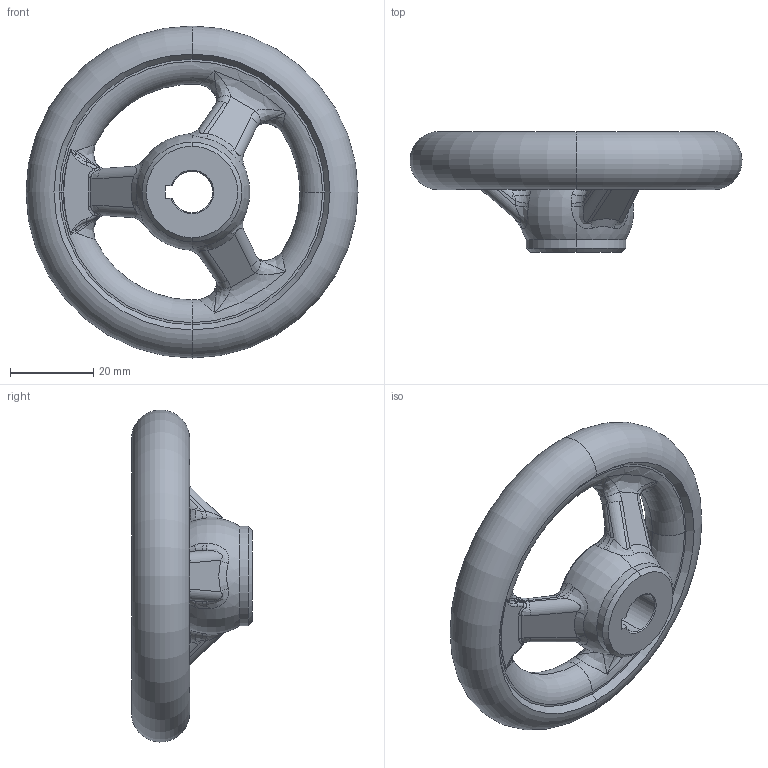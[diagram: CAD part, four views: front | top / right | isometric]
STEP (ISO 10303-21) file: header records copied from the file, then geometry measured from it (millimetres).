
FILE_DESCRIPTION (( 'STEP AP203' ), '1' );
FILE_NAME ('din950_a3_80x10.step', '2010-03-23T09:54:52', ( '_' ), ( '_' ), 'SwSTEP 2.0', 'SolidWorks 2010', '' );
FILE_SCHEMA (( 'CONFIG_CONTROL_DESIGN' ));
Length unit declared in the file: millimetre
Products named in the file (1): din950_a3_80x10
Bounding box: 79.99 x 29 x 79.99 mm (x, y, z)
Volume: 40805.4 mm3; surface area: 12790 mm2
Topology: 1 solids, 1 shells, 193 faces, 478 edges, 269 vertices
Faces by surface type: bspline 109, torus 27, cylinder 24, plane 19, cone 14
Entity records: 23304 total; most frequent: CARTESIAN_POINT 19354, ORIENTED_EDGE 932, DIRECTION 623, EDGE_CURVE 466, AXIS2_PLACEMENT_3D 284, VERTEX_POINT 269, B_SPLINE_CURVE_WITH_KNOTS 210, CIRCLE 199
